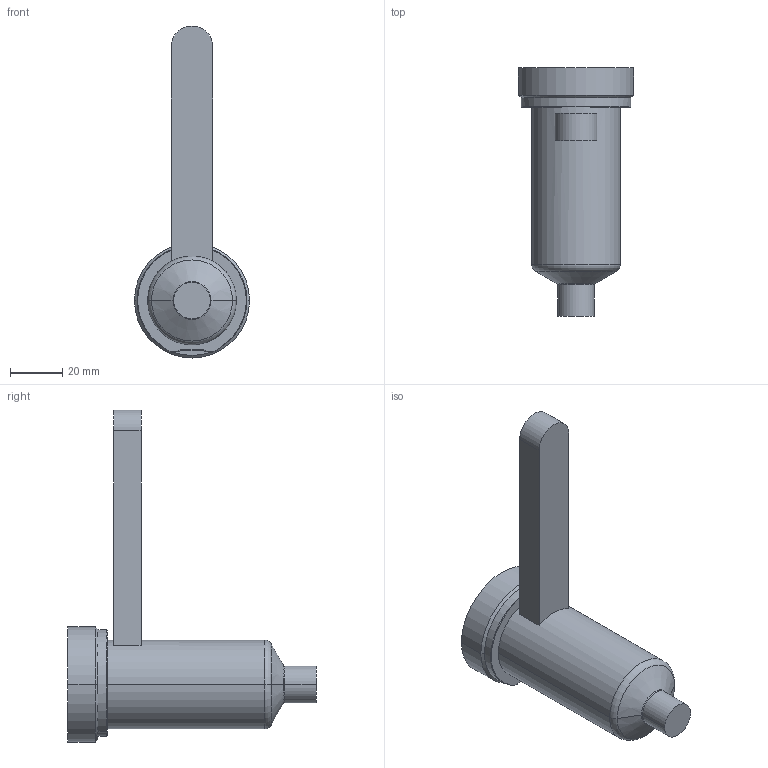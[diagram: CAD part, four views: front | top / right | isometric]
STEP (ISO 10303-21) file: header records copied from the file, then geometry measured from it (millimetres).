
FILE_DESCRIPTION((''),'2;1');
FILE_NAME('EO10_VG-ST_ESG_070_COT','2024-02-19T12:47:48',('sundharh'),(''),'CREO PARAMETRIC BY PTC INC, 2023154','CREO PARAMETRIC BY PTC INC, 2023154','');
FILE_SCHEMA(('CONFIG_CONTROL_DESIGN'));
Length unit declared in the file: millimetre
Products named in the file (1): EO10_VG-ST_ESG_070_COT
Bounding box: 44 x 95 x 127 mm (x, y, z)
Volume: 97650.1 mm3; surface area: 16828.2 mm2
Topology: 1 solids, 1 shells, 31 faces, 67 edges, 40 vertices
Faces by surface type: cylinder 11, plane 9, torus 7, cone 4
Entity records: 959 total; most frequent: CARTESIAN_POINT 226, DIRECTION 159, ORIENTED_EDGE 134, AXIS2_PLACEMENT_3D 67, EDGE_CURVE 67, VERTEX_POINT 40, CIRCLE 36, EDGE_LOOP 33
